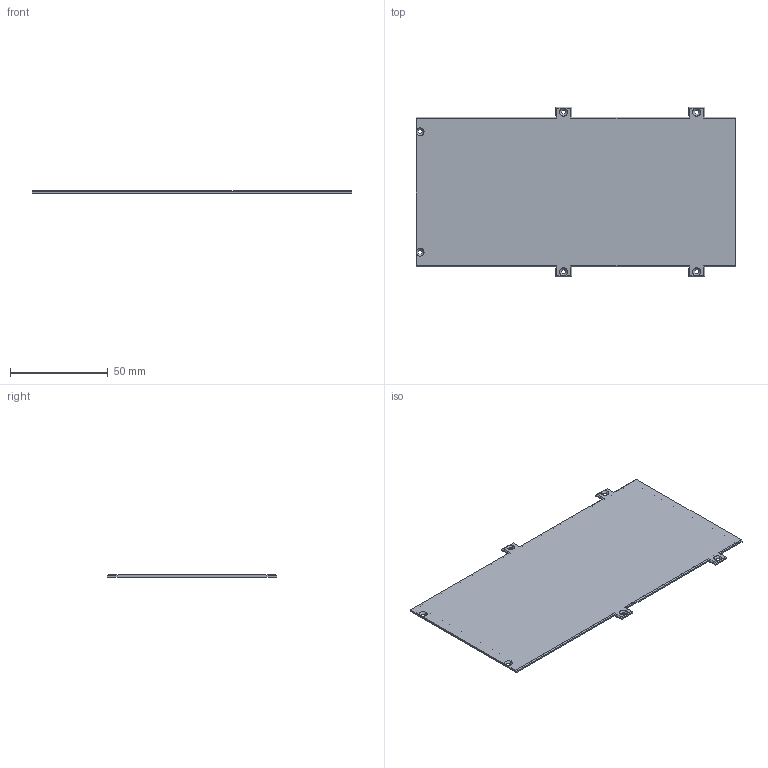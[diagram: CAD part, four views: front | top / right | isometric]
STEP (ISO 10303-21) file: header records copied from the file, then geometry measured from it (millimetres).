
FILE_DESCRIPTION (( 'STEP AP214' ), '1' );
FILE_NAME ('电池壳遮挡板3.STEP', '2026-09-29T00:45:54', ( '微软用户' ), ( '微软中国' ), 'SwSTEP 2.0', 'SolidWorks 2016', '' );
FILE_SCHEMA (( 'AUTOMOTIVE_DESIGN' ));
Length unit declared in the file: millimetre
Products named in the file (1): 萇喀褲殑結啣3
Bounding box: 163.3 x 86.4 x 1.2 mm (x, y, z)
Volume: 7038.9 mm3; surface area: 26161.4 mm2
Topology: 1 solids, 1 shells, 73 faces, 200 edges, 122 vertices
Faces by surface type: plane 45, cylinder 16, cone 12
Entity records: 2312 total; most frequent: CARTESIAN_POINT 410, ORIENTED_EDGE 392, DIRECTION 388, EDGE_CURVE 196, VECTOR 144, LINE 144, AXIS2_PLACEMENT_3D 122, VERTEX_POINT 120
